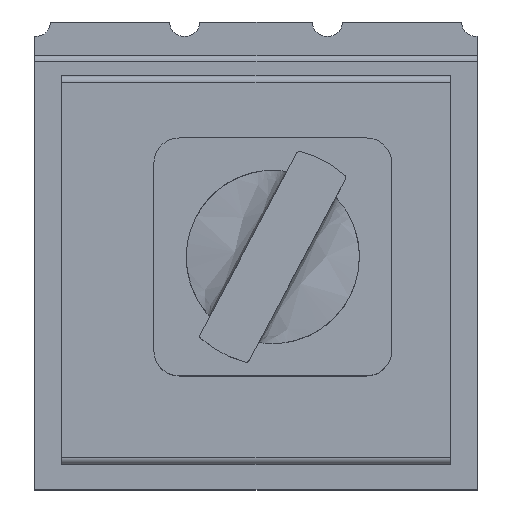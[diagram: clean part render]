
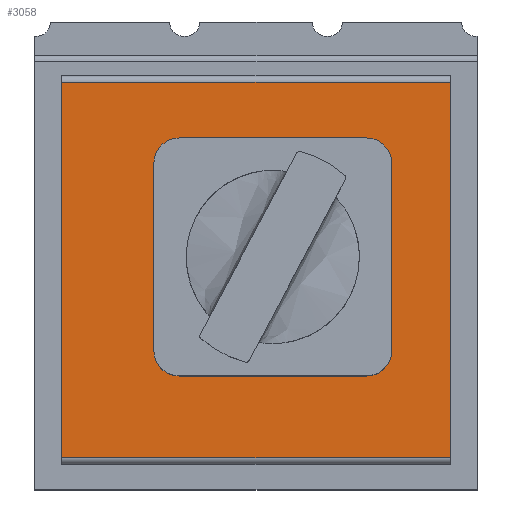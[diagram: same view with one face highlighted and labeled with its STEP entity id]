
A CAD part, top view. The second image highlights one B-rep face of the part: STEP entity #3058.
In plain terms, the highlighted planar face has unit normal (0, 0, 1).
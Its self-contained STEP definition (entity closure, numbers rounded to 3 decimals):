
#53 = VECTOR ( 'NONE', #2453, 1000. ) ;
#91 = EDGE_CURVE ( 'NONE', #276, #1129, #1080, .T. ) ;
#110 = PLANE ( 'NONE',  #2252 ) ;
#165 = ORIENTED_EDGE ( 'NONE', *, *, #3211, .F. ) ;
#276 = VERTEX_POINT ( 'NONE', #437 ) ;
#437 = CARTESIAN_POINT ( 'NONE',  ( -61.3, -37.5, 146. ) ) ;
#498 = VERTEX_POINT ( 'NONE', #1634 ) ;
#518 = EDGE_CURVE ( 'NONE', #1129, #593, #1754, .T. ) ;
#593 = VERTEX_POINT ( 'NONE', #605 ) ;
#605 = CARTESIAN_POINT ( 'NONE',  ( 61.3, 81., 146. ) ) ;
#620 = DIRECTION ( 'NONE',  ( 0., 1., 0. ) ) ;
#906 = VECTOR ( 'NONE', #620, 1000. ) ;
#929 = CIRCLE ( 'NONE', #956, 17.5 ) ;
#956 = AXIS2_PLACEMENT_3D ( 'NONE', #3027, #2278, #1630 ) ;
#1029 = DIRECTION ( 'NONE',  ( 1., 0., 0. ) ) ;
#1050 = FACE_BOUND ( 'NONE', #4267, .T. ) ;
#1080 = LINE ( 'NONE', #4593, #53 ) ;
#1129 = VERTEX_POINT ( 'NONE', #3519 ) ;
#1143 = VERTEX_POINT ( 'NONE', #4592 ) ;
#1182 = ORIENTED_EDGE ( 'NONE', *, *, #91, .T. ) ;
#1228 = LINE ( 'NONE', #3982, #3526 ) ;
#1242 = CARTESIAN_POINT ( 'NONE',  ( -69.8, 81., 146. ) ) ;
#1375 = CARTESIAN_POINT ( 'NONE',  ( -61.3, 81., 146. ) ) ;
#1377 = AXIS2_PLACEMENT_3D ( 'NONE', #2879, #3983, #2894 ) ;
#1630 = DIRECTION ( 'NONE',  ( 1., 0., 0. ) ) ;
#1634 = CARTESIAN_POINT ( 'NONE',  ( -12.2, 25., 146. ) ) ;
#1694 = CARTESIAN_POINT ( 'NONE',  ( 61.3, -39.5, 146. ) ) ;
#1754 = LINE ( 'NONE', #1694, #906 ) ;
#1835 = EDGE_CURVE ( 'NONE', #4478, #276, #1228, .T. ) ;
#1975 = DIRECTION ( 'NONE',  ( 0., 0., 1. ) ) ;
#2041 = ORIENTED_EDGE ( 'NONE', *, *, #3478, .F. ) ;
#2206 = EDGE_CURVE ( 'NONE', #4478, #593, #2628, .T. ) ;
#2252 = AXIS2_PLACEMENT_3D ( 'NONE', #1242, #1975, #2640 ) ;
#2278 = DIRECTION ( 'NONE',  ( 0., 0., 1. ) ) ;
#2453 = DIRECTION ( 'NONE',  ( 1., 0., 0. ) ) ;
#2628 = LINE ( 'NONE', #3866, #4081 ) ;
#2640 = DIRECTION ( 'NONE',  ( 1., 0., 0. ) ) ;
#2879 = CARTESIAN_POINT ( 'NONE',  ( 5.3, 25., 146. ) ) ;
#2881 = ORIENTED_EDGE ( 'NONE', *, *, #518, .T. ) ;
#2894 = DIRECTION ( 'NONE',  ( 1., 0., 0. ) ) ;
#3027 = CARTESIAN_POINT ( 'NONE',  ( 5.3, 25., 146. ) ) ;
#3058 = ADVANCED_FACE ( 'NONE', ( #1050, #3189 ), #110, .T. ) ;
#3131 = CIRCLE ( 'NONE', #1377, 17.5 ) ;
#3189 = FACE_OUTER_BOUND ( 'NONE', #3723, .T. ) ;
#3211 = EDGE_CURVE ( 'NONE', #1143, #498, #3131, .T. ) ;
#3478 = EDGE_CURVE ( 'NONE', #498, #1143, #929, .T. ) ;
#3519 = CARTESIAN_POINT ( 'NONE',  ( 61.3, -37.5, 146. ) ) ;
#3526 = VECTOR ( 'NONE', #3661, 1000. ) ;
#3661 = DIRECTION ( 'NONE',  ( 0., -1., 0. ) ) ;
#3723 = EDGE_LOOP ( 'NONE', ( #4366, #4513, #1182, #2881 ) ) ;
#3866 = CARTESIAN_POINT ( 'NONE',  ( -69.8, 81., 146. ) ) ;
#3982 = CARTESIAN_POINT ( 'NONE',  ( -61.3, 83., 146. ) ) ;
#3983 = DIRECTION ( 'NONE',  ( 0., 0., 1. ) ) ;
#4081 = VECTOR ( 'NONE', #1029, 1000. ) ;
#4267 = EDGE_LOOP ( 'NONE', ( #2041, #165 ) ) ;
#4366 = ORIENTED_EDGE ( 'NONE', *, *, #2206, .F. ) ;
#4478 = VERTEX_POINT ( 'NONE', #1375 ) ;
#4513 = ORIENTED_EDGE ( 'NONE', *, *, #1835, .T. ) ;
#4592 = CARTESIAN_POINT ( 'NONE',  ( 22.8, 25., 146. ) ) ;
#4593 = CARTESIAN_POINT ( 'NONE',  ( -69.8, -37.5, 146. ) ) ;
